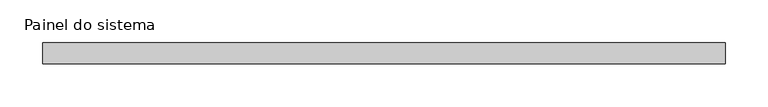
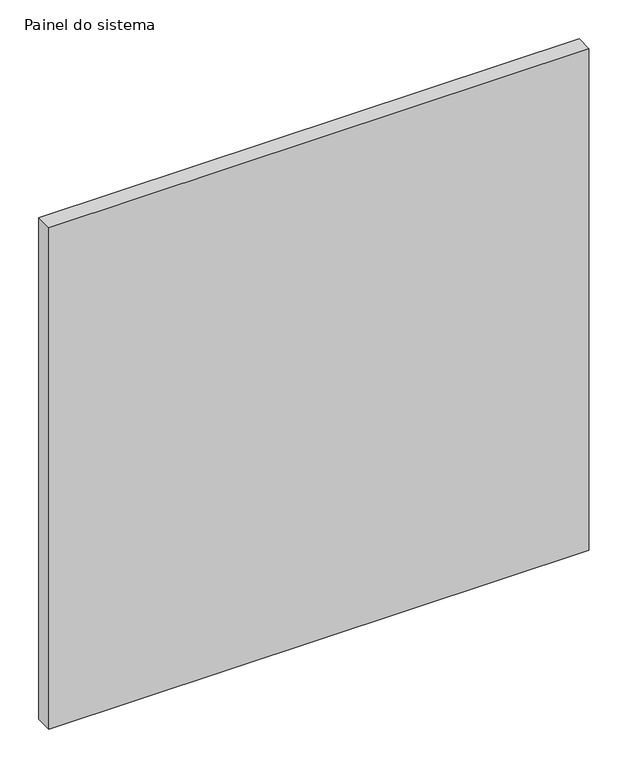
"""IFC4 building model written with IfcOpenShell, lengths in millimetres: plate geometry, Painel do sistema : Envidraçado."""

from ifc_helpers import new_model, si_unit, origin, origin_with_axes, place, context, project, spatial, polyline, outline, extrude, source, transform, mapped, element, save


def painel_do_sistema_2ed7b716(model_context):
    return source(origin(), model_context, "Body", "SweptSolid", [
        extrude(outline(polyline([(400.0, 24.5), (-400.0, 24.5), (-400.0, 49.5), (400.0, 49.5), (400.0, 24.5)])), origin_with_axes(), (0.0, 0.0, 1.0), 785.0),
    ])


if __name__ == "__main__":
    model = new_model("IFC4")
    model_context = context("Model", 3, world=origin())
    ifc_project = project(units=[si_unit("LENGTHUNIT", "METRE", prefix="MILLI")], contexts=[model_context])
    site = spatial("IfcSite", under=ifc_project)
    building = spatial("IfcBuilding", under=site)
    placement = place(None, origin())
    painel_do_sistema_shape = painel_do_sistema_2ed7b716(model_context)
    element("IfcPlate", 1, ObjectType="Painel do sistema : Envidraçado", at=placement, inside=building, context=model_context, shape_type="MappedRepresentation", body=[
        mapped(painel_do_sistema_shape, transform((0.0, 0.0, 0.0), x_axis=(1.0, 0.0, 0.0), y_axis=(0.0, 1.0, 0.0), z_axis=(0.0, 0.0, 1.0))),
    ])
    save(model, "model.ifc")
